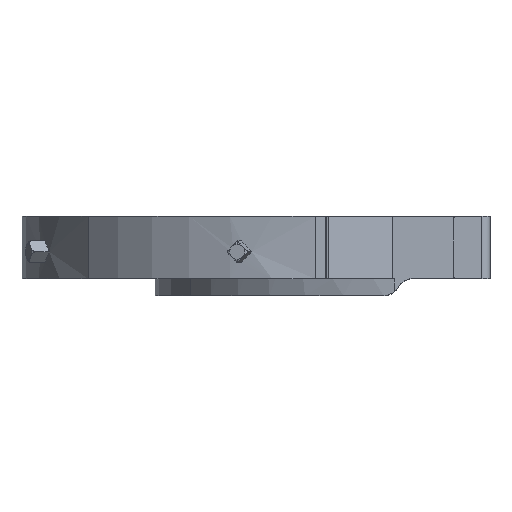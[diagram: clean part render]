
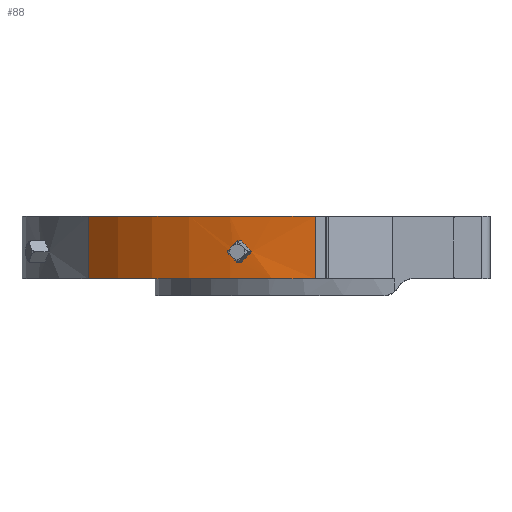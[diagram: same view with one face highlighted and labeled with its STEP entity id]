
A CAD part, left-side view. The second image highlights one B-rep face of the part: STEP entity #88.
In plain terms, the highlighted cylindrical face has radius 87 mm (diameter 174 mm), a partial arc.
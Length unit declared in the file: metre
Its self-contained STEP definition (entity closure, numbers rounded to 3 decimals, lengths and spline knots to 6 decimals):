
#88=ADVANCED_FACE('1:4823',(#213,#214),#215,.T.);
#213=FACE_OUTER_BOUND('',#432,.T.);
#214=FACE_BOUND('',#433,.T.);
#215=CYLINDRICAL_SURFACE('',#434,0.087);
#432=EDGE_LOOP('',(#682,#683,#684,#685));
#433=EDGE_LOOP('',(#686,#687,#688,#689));
#434=AXIS2_PLACEMENT_3D('',#690,#691,#692);
#682=ORIENTED_EDGE('',*,*,#1572,.F.);
#683=ORIENTED_EDGE('',*,*,#1573,.F.);
#684=ORIENTED_EDGE('',*,*,#1574,.T.);
#685=ORIENTED_EDGE('',*,*,#1575,.T.);
#686=ORIENTED_EDGE('',*,*,#1576,.T.);
#687=ORIENTED_EDGE('',*,*,#1577,.T.);
#688=ORIENTED_EDGE('',*,*,#1578,.T.);
#689=ORIENTED_EDGE('',*,*,#1579,.T.);
#690=CARTESIAN_POINT('',(-0.007786,-0.023746,0.0075));
#691=DIRECTION('',(0.0,0.0,1.0));
#692=DIRECTION('',(-0.633,0.774,0.0));
#1572=EDGE_CURVE('',#1889,#1890,#1891,.T.);
#1573=EDGE_CURVE('1:5078',#1892,#1889,#1893,.T.);
#1574=EDGE_CURVE('15:6896',#1892,#1894,#1895,.T.);
#1575=EDGE_CURVE('17:1495',#1894,#1890,#1896,.F.);
#1576=EDGE_CURVE('13:2670',#1897,#1898,#1899,.T.);
#1577=EDGE_CURVE('13:3019',#1898,#1900,#1901,.T.);
#1578=EDGE_CURVE('13:2903',#1900,#1902,#1903,.T.);
#1579=EDGE_CURVE('13:2787',#1902,#1897,#1904,.T.);
#1889=VERTEX_POINT('',#2812);
#1890=VERTEX_POINT('',#2813);
#1891=LINE('',#2814,#2815);
#1892=VERTEX_POINT('',#2816);
#1893=CIRCLE('',#2817,0.087);
#1894=VERTEX_POINT('',#2818);
#1895=LINE('',#2819,#2820);
#1896=CIRCLE('',#2821,0.087);
#1897=VERTEX_POINT('',#2822);
#1898=VERTEX_POINT('',#2823);
#1899=ELLIPSE('',#2824,0.123037,0.087);
#1900=VERTEX_POINT('',#2825);
#1901=ELLIPSE('',#2826,0.123037,0.087);
#1902=VERTEX_POINT('',#2827);
#1903=ELLIPSE('',#2828,0.123037,0.087);
#1904=ELLIPSE('',#2829,0.123037,0.087);
#2812=CARTESIAN_POINT('',(-0.062843,0.043617,0.0075));
#2813=CARTESIAN_POINT('',(-0.062843,0.043617,0.026));
#2814=CARTESIAN_POINT('',(-0.062843,0.043617,0.0075));
#2815=VECTOR('',#4198,1.0);
#2816=CARTESIAN_POINT('',(-0.094786,-0.023746,0.0075));
#2817=AXIS2_PLACEMENT_3D('',#4199,#4200,#4201);
#2818=CARTESIAN_POINT('',(-0.094786,-0.023746,0.026));
#2819=CARTESIAN_POINT('',(-0.094786,-0.023746,0.0075));
#2820=VECTOR('',#4202,1.0);
#2821=AXIS2_PLACEMENT_3D('',#4203,#4204,#4205);
#2822=CARTESIAN_POINT('',(-0.09198,-0.001831,0.01875));
#2823=CARTESIAN_POINT('',(-0.09274,-0.004991,0.0155));
#2824=AXIS2_PLACEMENT_3D('',#4206,#4207,#4208);
#2825=CARTESIAN_POINT('',(-0.09198,-0.001831,0.01225));
#2826=AXIS2_PLACEMENT_3D('',#4209,#4210,#4211);
#2827=CARTESIAN_POINT('',(-0.091103,0.001299,0.0155));
#2828=AXIS2_PLACEMENT_3D('',#4212,#4213,#4214);
#2829=AXIS2_PLACEMENT_3D('',#4215,#4216,#4217);
#4198=DIRECTION('',(0.0,0.0,1.0));
#4199=CARTESIAN_POINT('',(-0.007786,-0.023746,0.0075));
#4200=DIRECTION('',(0.0,0.0,-1.0));
#4201=DIRECTION('',(-0.633,0.774,0.0));
#4202=DIRECTION('',(0.0,0.0,1.0));
#4203=CARTESIAN_POINT('',(-0.007786,-0.023746,0.026));
#4204=DIRECTION('',(0.0,0.0,1.0));
#4205=DIRECTION('',(-0.633,0.774,0.0));
#4206=CARTESIAN_POINT('',(-0.007786,-0.023746,0.01875));
#4207=DIRECTION('',(-0.178,-0.684,0.707));
#4208=DIRECTION('',(0.178,0.684,0.707));
#4209=CARTESIAN_POINT('',(-0.007786,-0.023746,0.01225));
#4210=DIRECTION('',(-0.178,-0.684,-0.707));
#4211=DIRECTION('',(0.178,0.684,-0.707));
#4212=CARTESIAN_POINT('',(-0.007786,-0.023746,0.01225));
#4213=DIRECTION('',(0.178,0.684,-0.707));
#4214=DIRECTION('',(0.178,0.684,0.707));
#4215=CARTESIAN_POINT('',(-0.007786,-0.023746,0.01875));
#4216=DIRECTION('',(0.178,0.684,0.707));
#4217=DIRECTION('',(0.178,0.684,-0.707));
